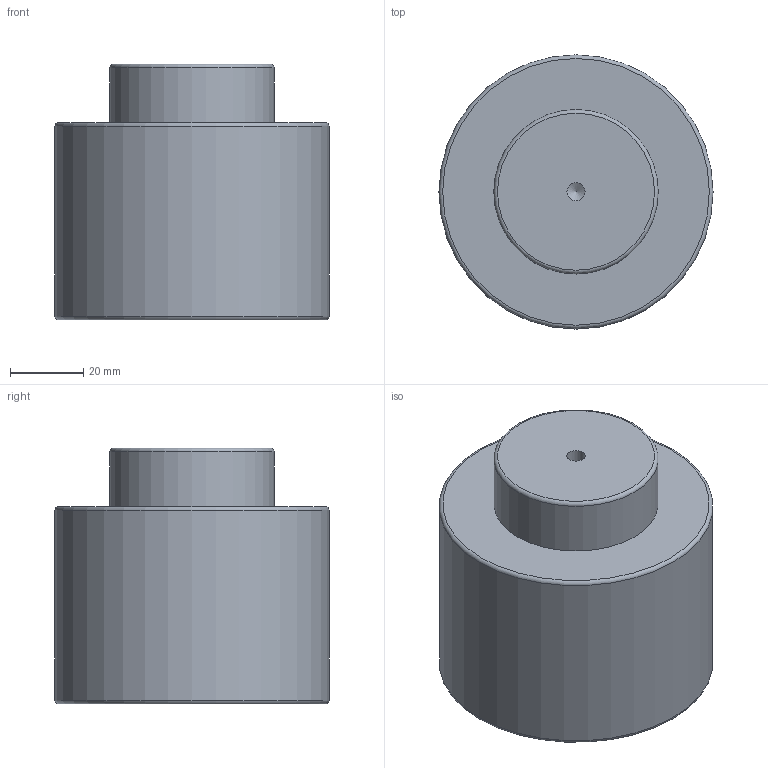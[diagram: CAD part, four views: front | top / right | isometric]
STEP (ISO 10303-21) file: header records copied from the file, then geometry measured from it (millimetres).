
FILE_DESCRIPTION(/* description */ (''),/* implementation_level */ '2;1');
FILE_NAME(/* name */ 'NV5-SMLX.75x15.stp',/* time_stamp */ '2018-08-31T16:08:29+02:00',/* author */ (''),/* organization */ (''),/* preprocessor_version */ 'ST-DEVELOPER v16',/* originating_system */ 'SIEMENS PLM Software NX 10.0',/* authorisation */ '');
FILE_SCHEMA (('AUTOMOTIVE_DESIGN { 1 0 10303 214 3 1 1 1 }'));
Length unit declared in the file: millimetre
Products named in the file (1): NV5-SMLX.75x15
Bounding box: 75 x 75 x 70 mm (x, y, z)
Volume: 261902.8 mm3; surface area: 24394 mm2
Topology: 1 solids, 1 shells, 12 faces, 24 edges, 15 vertices
Faces by surface type: cylinder 4, torus 3, plane 3, cone 2
Full cylindrical faces by diameter (mm): 5 x1, 10.3 x1, 45 x1, 75 x1
Entity records: 266 total; most frequent: DIRECTION 48, CARTESIAN_POINT 37, FACE_BOUND 24, AXIS2_PLACEMENT_3D 24, EDGE_LOOP 22, ORIENTED_EDGE 22, VERTEX_POINT 13, ADVANCED_FACE 12
